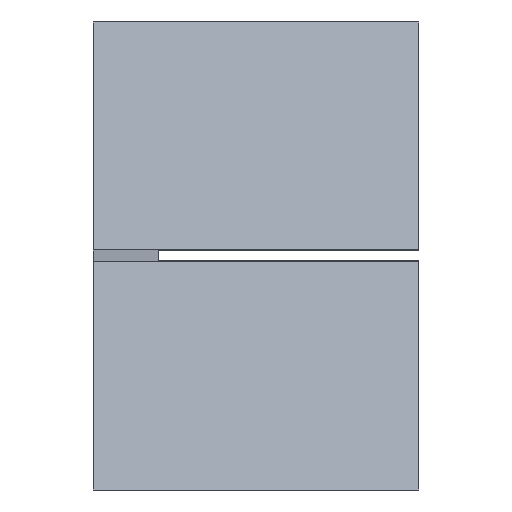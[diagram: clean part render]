
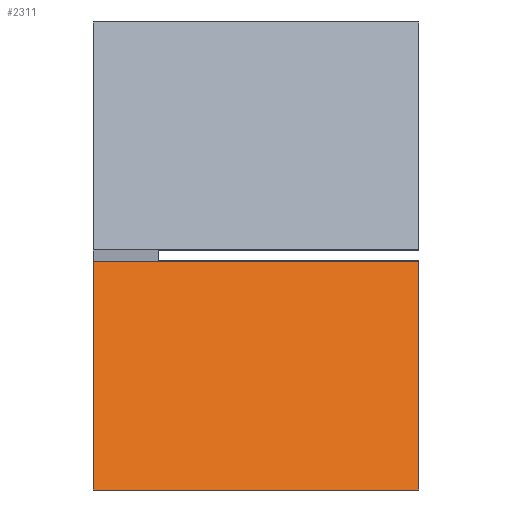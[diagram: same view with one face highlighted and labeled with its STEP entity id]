
A CAD part, left-side view. The second image highlights one B-rep face of the part: STEP entity #2311.
In plain terms, the highlighted planar face has unit normal (-0.943, 0, 0.334).
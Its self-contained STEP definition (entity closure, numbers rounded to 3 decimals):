
#20 = DIRECTION ( 'NONE',  ( 0.943, 0., -0.334 ) ) ;
#47 = ORIENTED_EDGE ( 'NONE', *, *, #1804, .F. ) ;
#50 = DIRECTION ( 'NONE',  ( -0.334, 0., -0.943 ) ) ;
#63 = VERTEX_POINT ( 'NONE', #2631 ) ;
#94 = CARTESIAN_POINT ( 'NONE',  ( 206.695, -65.597, 1703.883 ) ) ;
#126 = PLANE ( 'NONE',  #2808 ) ;
#164 = EDGE_LOOP ( 'NONE', ( #1643, #2592, #47, #1645 ) ) ;
#316 = CARTESIAN_POINT ( 'NONE',  ( 206.695, -57.597, 1703.883 ) ) ;
#532 = VERTEX_POINT ( 'NONE', #1109 ) ;
#533 = DIRECTION ( 'NONE',  ( 0., -1., 0. ) ) ;
#561 = CARTESIAN_POINT ( 'NONE',  ( 216.654, -65.597, 1731.967 ) ) ;
#711 = LINE ( 'NONE', #841, #3298 ) ;
#756 = DIRECTION ( 'NONE',  ( 0., -1., 0. ) ) ;
#773 = VECTOR ( 'NONE', #3016, 1000. ) ;
#841 = CARTESIAN_POINT ( 'NONE',  ( 206.695, -65.597, 1703.883 ) ) ;
#888 = EDGE_CURVE ( 'NONE', #532, #63, #3255, .T. ) ;
#1109 = CARTESIAN_POINT ( 'NONE',  ( 216.654, -97.597, 1731.967 ) ) ;
#1228 = LINE ( 'NONE', #561, #3320 ) ;
#1235 = VECTOR ( 'NONE', #3020, 1000. ) ;
#1643 = ORIENTED_EDGE ( 'NONE', *, *, #2242, .T. ) ;
#1645 = ORIENTED_EDGE ( 'NONE', *, *, #2450, .T. ) ;
#1804 = EDGE_CURVE ( 'NONE', #2559, #532, #1228, .T. ) ;
#1814 = FACE_OUTER_BOUND ( 'NONE', #164, .T. ) ;
#2242 = EDGE_CURVE ( 'NONE', #3302, #63, #711, .T. ) ;
#2311 = ADVANCED_FACE ( 'NONE', ( #1814 ), #126, .F. ) ;
#2450 = EDGE_CURVE ( 'NONE', #2559, #3302, #2798, .T. ) ;
#2559 = VERTEX_POINT ( 'NONE', #2905 ) ;
#2592 = ORIENTED_EDGE ( 'NONE', *, *, #888, .F. ) ;
#2631 = CARTESIAN_POINT ( 'NONE',  ( 206.695, -97.597, 1703.883 ) ) ;
#2798 = LINE ( 'NONE', #3021, #773 ) ;
#2808 = AXIS2_PLACEMENT_3D ( 'NONE', #94, #20, #50 ) ;
#2905 = CARTESIAN_POINT ( 'NONE',  ( 216.654, -57.597, 1731.967 ) ) ;
#3016 = DIRECTION ( 'NONE',  ( -0.334, 0., -0.943 ) ) ;
#3020 = DIRECTION ( 'NONE',  ( -0.334, 0., -0.943 ) ) ;
#3021 = CARTESIAN_POINT ( 'NONE',  ( 216.654, -57.597, 1731.967 ) ) ;
#3037 = CARTESIAN_POINT ( 'NONE',  ( 206.695, -97.597, 1703.883 ) ) ;
#3255 = LINE ( 'NONE', #3037, #1235 ) ;
#3298 = VECTOR ( 'NONE', #756, 1000. ) ;
#3302 = VERTEX_POINT ( 'NONE', #316 ) ;
#3320 = VECTOR ( 'NONE', #533, 1000. ) ;
